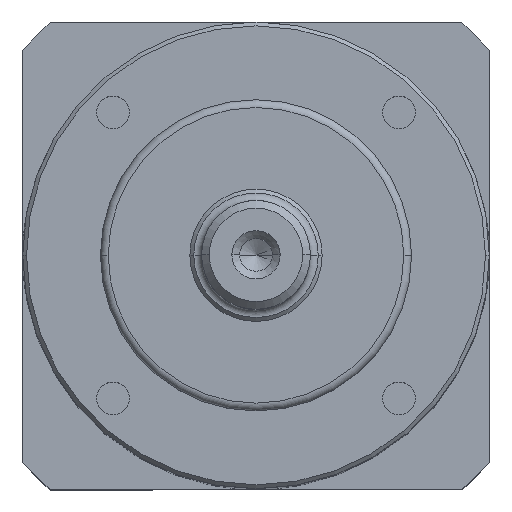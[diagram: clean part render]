
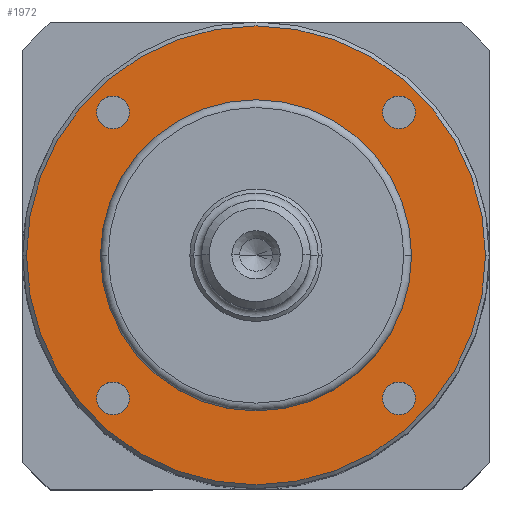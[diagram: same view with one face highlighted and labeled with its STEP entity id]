
A CAD part, top view. The second image highlights one B-rep face of the part: STEP entity #1972.
In plain terms, the highlighted planar face has unit normal (0, 0, 1).
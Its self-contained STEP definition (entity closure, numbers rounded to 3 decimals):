
#34 = CARTESIAN_POINT ( 'NONE',  ( -16.285, 18.385, 12.5 ) ) ;
#63 = DIRECTION ( 'NONE',  ( 0., 0., 1. ) ) ;
#96 = DIRECTION ( 'NONE',  ( 0., 0., 1. ) ) ;
#102 = CARTESIAN_POINT ( 'NONE',  ( 0., 0., 12.5 ) ) ;
#106 = DIRECTION ( 'NONE',  ( 1., 0., 0. ) ) ;
#133 = DIRECTION ( 'NONE',  ( 0., 0., 1. ) ) ;
#162 = EDGE_CURVE ( 'NONE', #3347, #458, #1354, .T. ) ;
#163 = CARTESIAN_POINT ( 'NONE',  ( 20.485, 18.385, 12.5 ) ) ;
#205 = AXIS2_PLACEMENT_3D ( 'NONE', #2763, #4082, #779 ) ;
#226 = DIRECTION ( 'NONE',  ( 1., 0., 0. ) ) ;
#248 = DIRECTION ( 'NONE',  ( 1., 0., 0. ) ) ;
#253 = EDGE_CURVE ( 'NONE', #390, #3566, #3432, .T. ) ;
#289 = DIRECTION ( 'NONE',  ( 0., 0., 1. ) ) ;
#292 = CARTESIAN_POINT ( 'NONE',  ( 0., 0., 12.5 ) ) ;
#321 = ORIENTED_EDGE ( 'NONE', *, *, #3615, .T. ) ;
#378 = EDGE_CURVE ( 'NONE', #2100, #3574, #510, .T. ) ;
#390 = VERTEX_POINT ( 'NONE', #1598 ) ;
#440 = CARTESIAN_POINT ( 'NONE',  ( 0., 0., 12.5 ) ) ;
#443 = CIRCLE ( 'NONE', #928, 29.5 ) ;
#458 = VERTEX_POINT ( 'NONE', #461 ) ;
#461 = CARTESIAN_POINT ( 'NONE',  ( -20.485, 18.385, 12.5 ) ) ;
#498 = FACE_BOUND ( 'NONE', #1871, .T. ) ;
#510 = CIRCLE ( 'NONE', #1002, 2.1 ) ;
#529 = CARTESIAN_POINT ( 'NONE',  ( 16.285, 18.385, 12.5 ) ) ;
#554 = DIRECTION ( 'NONE',  ( 1., 0., 0. ) ) ;
#633 = AXIS2_PLACEMENT_3D ( 'NONE', #2047, #63, #2077 ) ;
#680 = EDGE_CURVE ( 'NONE', #2115, #3883, #3487, .T. ) ;
#715 = EDGE_CURVE ( 'NONE', #3566, #390, #1503, .T. ) ;
#721 = CARTESIAN_POINT ( 'NONE',  ( 29.5, 0., 12.5 ) ) ;
#754 = CARTESIAN_POINT ( 'NONE',  ( 20., 0., 12.5 ) ) ;
#779 = DIRECTION ( 'NONE',  ( 1., 0., 0. ) ) ;
#870 = DIRECTION ( 'NONE',  ( 1., 0., 0. ) ) ;
#877 = ORIENTED_EDGE ( 'NONE', *, *, #3501, .F. ) ;
#919 = CARTESIAN_POINT ( 'NONE',  ( -18.385, 18.385, 12.5 ) ) ;
#927 = FACE_BOUND ( 'NONE', #2462, .T. ) ;
#928 = AXIS2_PLACEMENT_3D ( 'NONE', #292, #1310, #870 ) ;
#940 = VERTEX_POINT ( 'NONE', #2701 ) ;
#973 = DIRECTION ( 'NONE',  ( 0., 0., 1. ) ) ;
#1002 = AXIS2_PLACEMENT_3D ( 'NONE', #3612, #973, #3293 ) ;
#1044 = ORIENTED_EDGE ( 'NONE', *, *, #680, .F. ) ;
#1064 = VERTEX_POINT ( 'NONE', #4211 ) ;
#1083 = CIRCLE ( 'NONE', #1548, 20. ) ;
#1114 = ORIENTED_EDGE ( 'NONE', *, *, #1320, .F. ) ;
#1188 = EDGE_CURVE ( 'NONE', #940, #2979, #3025, .T. ) ;
#1251 = CARTESIAN_POINT ( 'NONE',  ( -18.385, -18.385, 12.5 ) ) ;
#1269 = CIRCLE ( 'NONE', #205, 2.1 ) ;
#1310 = DIRECTION ( 'NONE',  ( 0., 0., 1. ) ) ;
#1320 = EDGE_CURVE ( 'NONE', #3606, #1064, #1921, .T. ) ;
#1345 = AXIS2_PLACEMENT_3D ( 'NONE', #3920, #1920, #4244 ) ;
#1354 = CIRCLE ( 'NONE', #2255, 2.1 ) ;
#1503 = CIRCLE ( 'NONE', #1345, 2.1 ) ;
#1506 = ORIENTED_EDGE ( 'NONE', *, *, #1188, .T. ) ;
#1548 = AXIS2_PLACEMENT_3D ( 'NONE', #102, #133, #3918 ) ;
#1598 = CARTESIAN_POINT ( 'NONE',  ( 20.485, -18.385, 12.5 ) ) ;
#1701 = EDGE_CURVE ( 'NONE', #3883, #2115, #1083, .T. ) ;
#1721 = AXIS2_PLACEMENT_3D ( 'NONE', #2575, #3553, #1891 ) ;
#1871 = EDGE_LOOP ( 'NONE', ( #2982, #2084 ) ) ;
#1891 = DIRECTION ( 'NONE',  ( 1., 0., 0. ) ) ;
#1917 = FACE_BOUND ( 'NONE', #2783, .T. ) ;
#1920 = DIRECTION ( 'NONE',  ( 0., 0., 1. ) ) ;
#1921 = CIRCLE ( 'NONE', #4058, 2.1 ) ;
#1972 = ADVANCED_FACE ( 'NONE', ( #1917, #2762, #3841, #498, #927, #3259 ), #3765, .T. ) ;
#2047 = CARTESIAN_POINT ( 'NONE',  ( 18.385, 18.385, 12.5 ) ) ;
#2077 = DIRECTION ( 'NONE',  ( 1., 0., 0. ) ) ;
#2084 = ORIENTED_EDGE ( 'NONE', *, *, #715, .F. ) ;
#2100 = VERTEX_POINT ( 'NONE', #529 ) ;
#2109 = CIRCLE ( 'NONE', #633, 2.1 ) ;
#2115 = VERTEX_POINT ( 'NONE', #754 ) ;
#2134 = CARTESIAN_POINT ( 'NONE',  ( -16.285, -18.385, 12.5 ) ) ;
#2252 = CARTESIAN_POINT ( 'NONE',  ( 18.385, -18.385, 12.5 ) ) ;
#2255 = AXIS2_PLACEMENT_3D ( 'NONE', #919, #2578, #554 ) ;
#2429 = CARTESIAN_POINT ( 'NONE',  ( -20., 0., 12.5 ) ) ;
#2462 = EDGE_LOOP ( 'NONE', ( #877, #3329 ) ) ;
#2465 = CARTESIAN_POINT ( 'NONE',  ( 16.285, -18.385, 12.5 ) ) ;
#2547 = EDGE_LOOP ( 'NONE', ( #1506, #321 ) ) ;
#2575 = CARTESIAN_POINT ( 'NONE',  ( 0., 0., 12.5 ) ) ;
#2578 = DIRECTION ( 'NONE',  ( 0., 0., 1. ) ) ;
#2598 = DIRECTION ( 'NONE',  ( 0., 0., 1. ) ) ;
#2650 = EDGE_CURVE ( 'NONE', #1064, #3606, #3898, .T. ) ;
#2701 = CARTESIAN_POINT ( 'NONE',  ( -29.5, 0., 12.5 ) ) ;
#2762 = FACE_BOUND ( 'NONE', #2840, .T. ) ;
#2763 = CARTESIAN_POINT ( 'NONE',  ( -18.385, 18.385, 12.5 ) ) ;
#2783 = EDGE_LOOP ( 'NONE', ( #2800, #1044 ) ) ;
#2800 = ORIENTED_EDGE ( 'NONE', *, *, #1701, .F. ) ;
#2840 = EDGE_LOOP ( 'NONE', ( #3209, #3635 ) ) ;
#2848 = AXIS2_PLACEMENT_3D ( 'NONE', #440, #3748, #106 ) ;
#2853 = EDGE_LOOP ( 'NONE', ( #1114, #3834 ) ) ;
#2938 = DIRECTION ( 'NONE',  ( 0., 0., 1. ) ) ;
#2979 = VERTEX_POINT ( 'NONE', #721 ) ;
#2982 = ORIENTED_EDGE ( 'NONE', *, *, #253, .F. ) ;
#3025 = CIRCLE ( 'NONE', #3354, 29.5 ) ;
#3209 = ORIENTED_EDGE ( 'NONE', *, *, #162, .F. ) ;
#3259 = FACE_OUTER_BOUND ( 'NONE', #2547, .T. ) ;
#3293 = DIRECTION ( 'NONE',  ( 1., 0., 0. ) ) ;
#3329 = ORIENTED_EDGE ( 'NONE', *, *, #378, .F. ) ;
#3347 = VERTEX_POINT ( 'NONE', #34 ) ;
#3354 = AXIS2_PLACEMENT_3D ( 'NONE', #3592, #289, #248 ) ;
#3412 = EDGE_CURVE ( 'NONE', #458, #3347, #1269, .T. ) ;
#3432 = CIRCLE ( 'NONE', #3629, 2.1 ) ;
#3487 = CIRCLE ( 'NONE', #1721, 20. ) ;
#3501 = EDGE_CURVE ( 'NONE', #3574, #2100, #2109, .T. ) ;
#3553 = DIRECTION ( 'NONE',  ( 0., 0., 1. ) ) ;
#3566 = VERTEX_POINT ( 'NONE', #2465 ) ;
#3574 = VERTEX_POINT ( 'NONE', #163 ) ;
#3592 = CARTESIAN_POINT ( 'NONE',  ( 0., 0., 12.5 ) ) ;
#3606 = VERTEX_POINT ( 'NONE', #2134 ) ;
#3612 = CARTESIAN_POINT ( 'NONE',  ( 18.385, 18.385, 12.5 ) ) ;
#3615 = EDGE_CURVE ( 'NONE', #2979, #940, #443, .T. ) ;
#3617 = DIRECTION ( 'NONE',  ( 1., 0., 0. ) ) ;
#3629 = AXIS2_PLACEMENT_3D ( 'NONE', #2252, #2938, #226 ) ;
#3635 = ORIENTED_EDGE ( 'NONE', *, *, #3412, .F. ) ;
#3748 = DIRECTION ( 'NONE',  ( 0., 0., 1. ) ) ;
#3765 = PLANE ( 'NONE',  #2848 ) ;
#3766 = DIRECTION ( 'NONE',  ( 1., 0., 0. ) ) ;
#3834 = ORIENTED_EDGE ( 'NONE', *, *, #2650, .F. ) ;
#3841 = FACE_BOUND ( 'NONE', #2853, .T. ) ;
#3854 = AXIS2_PLACEMENT_3D ( 'NONE', #1251, #2598, #3617 ) ;
#3883 = VERTEX_POINT ( 'NONE', #2429 ) ;
#3898 = CIRCLE ( 'NONE', #3854, 2.1 ) ;
#3918 = DIRECTION ( 'NONE',  ( 1., 0., 0. ) ) ;
#3920 = CARTESIAN_POINT ( 'NONE',  ( 18.385, -18.385, 12.5 ) ) ;
#4058 = AXIS2_PLACEMENT_3D ( 'NONE', #4090, #96, #3766 ) ;
#4082 = DIRECTION ( 'NONE',  ( 0., 0., 1. ) ) ;
#4090 = CARTESIAN_POINT ( 'NONE',  ( -18.385, -18.385, 12.5 ) ) ;
#4211 = CARTESIAN_POINT ( 'NONE',  ( -20.485, -18.385, 12.5 ) ) ;
#4244 = DIRECTION ( 'NONE',  ( 1., 0., 0. ) ) ;
